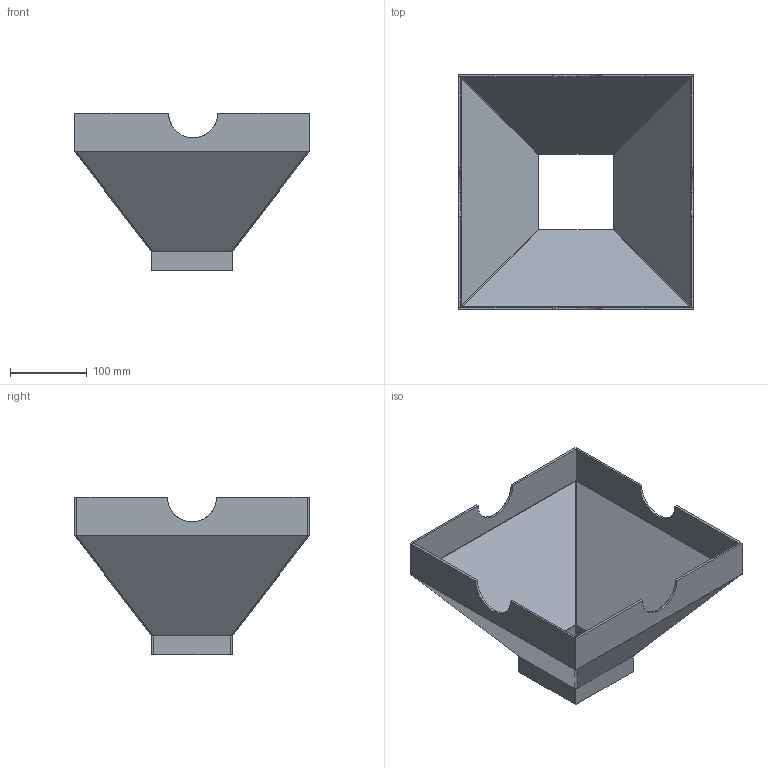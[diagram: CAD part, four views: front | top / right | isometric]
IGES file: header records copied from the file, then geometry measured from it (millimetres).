
Start section: START RECORD GO HERE.
Global section: file name: Hopper Assembly.igs; native system: IBM CATIA IGES - CATIA Version 5 Release 19 ; preprocessor: CATIA Version 5 Release 19 ; author: Designpc2; organization: Designpc2-PC; date: 20180619.142759; units: millimetre
Bounding box: 306 x 306 x 205 mm (x, y, z)
Surface area: 411852.7 mm2 (no closed solid volume)
Topology: 0 solids, 0 shells, 78 faces, 360 edges, 360 vertices
Faces by surface type: plane 62, revolution 16
